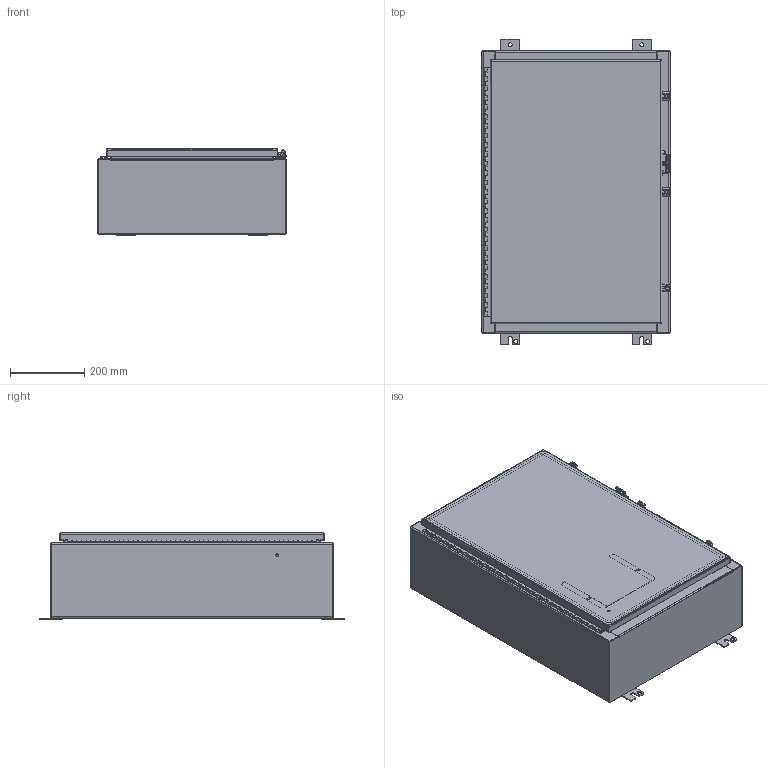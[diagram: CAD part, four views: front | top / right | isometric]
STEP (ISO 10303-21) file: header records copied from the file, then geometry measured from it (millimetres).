
FILE_DESCRIPTION((''),'2;1');
FILE_NAME('MODEL-303_ASM','2023-06-07T14:09:48',('mikek'),('SAGINAW CONTROL & ENGINEERING'),'CREO PARAMETRIC BY PTC INC, 2021284','CREO PARAMETRIC BY PTC INC, 2021284','');
FILE_SCHEMA(('AUTOMOTIVE_DESIGN { 1 0 10303 214 1 1 1 1 }'));
Length unit declared in the file: inch
Products named in the file (29): MODEL-303-BDY; MODEL-303-TP; MODEL-303-BTM; MODEL-303-DR; 100837; 100882; 111541; 118920_DR; 118920_PIN; 118920_BX; 118920_STUD; 118920_ASM; 100897; MODEL-303-DOOR-GASKET; 128600; 102483; MODEL-303-DOOR-ASSY_ASM; 102211; 101653; 121452; 120131_BASE; 120131_CLAMP; 120131_SCREW; 120131_CLOSED_ASM; 120134; SUBPANEL; 100904; SUBPANEL-SUBASSEMBLY_ASM; MODEL-303_ASM
Assembly tree (55 placements, depth 4):
  MODEL-303_ASM
    MODEL-303-BDY
    MODEL-303-TP
    MODEL-303-BTM
    MODEL-303-DOOR-ASSY_ASM
      MODEL-303-DR
      100837  x3
      100882  x2
      111541
      118920_ASM
        118920_DR
        118920_PIN
        118920_BX
        118920_STUD  x5
      100897  x5
      MODEL-303-DOOR-GASKET
      128600
      102483
    102211  x4
    100837
    101653  x4
    121452
    120131_CLOSED_ASM  x3
      120131_BASE
      120131_CLAMP
      120131_SCREW
    100882  x4
    120134
    SUBPANEL-SUBASSEMBLY_ASM
      SUBPANEL
      100904  x4
Bounding box: 508 x 825.5 x 233.88 mm (x, y, z)
Volume: 4101183.7 mm3; surface area: 3770643.5 mm2
Topology: 54 solids, 54 shells, 4074 faces, 10620 edges, 6697 vertices
Faces by surface type: plane 1628, bspline 1123, cylinder 880, torus 232, sphere 111, cone 100
Entity records: 95720 total; most frequent: CARTESIAN_POINT 30895, ORIENTED_EDGE 9678, DIRECTION 8707, PRESENTATION_STYLE_ASSIGNMENT 4967, STYLED_ITEM 4967, CURVE_STYLE 4839, EDGE_CURVE 4839, VERTEX_POINT 3048
